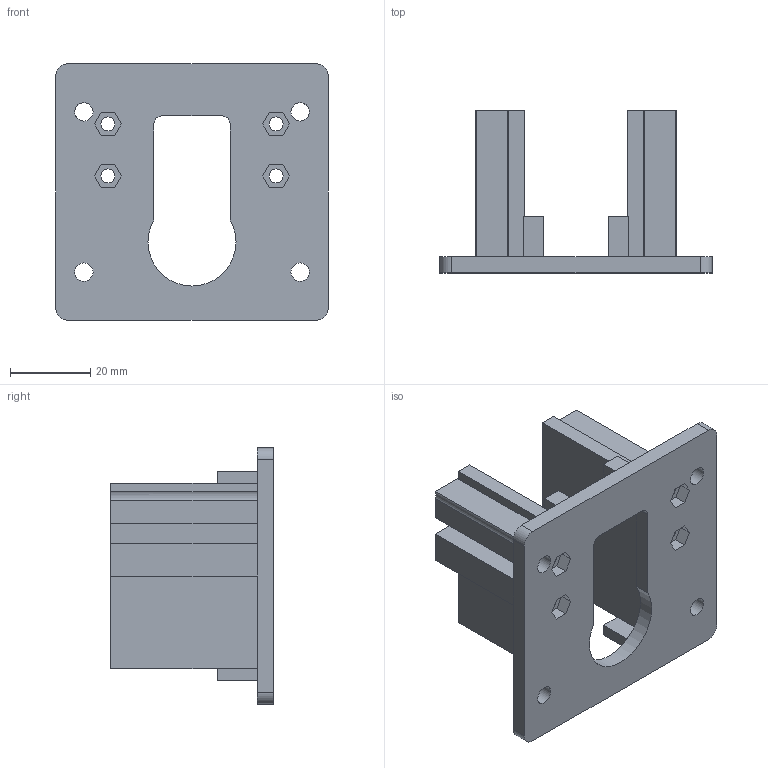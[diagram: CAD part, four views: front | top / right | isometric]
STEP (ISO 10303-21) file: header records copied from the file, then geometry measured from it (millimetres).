
FILE_DESCRIPTION(('Open CASCADE Model'),'2;1');
FILE_NAME('Open CASCADE Shape Model','2026-10-13T11:47:37',('Author'),( 'Open CASCADE'),'Open CASCADE STEP processor 7.8','Open CASCADE 7.8' ,'Unknown');
FILE_SCHEMA(('AUTOMOTIVE_DESIGN { 1 0 10303 214 1 1 1 1 }'));
Length unit declared in the file: millimetre
Products named in the file (1): Open CASCADE STEP translator 7.8 55
Bounding box: 68 x 40.5 x 64 mm (x, y, z)
Volume: 35639.7 mm3; surface area: 21431.3 mm2
Topology: 1 solids, 1 shells, 114 faces, 320 edges, 212 vertices
Faces by surface type: plane 99, cylinder 15
Full cylindrical faces by diameter (mm): 3.5 x4, 4.6 x4
Entity records: 7865 total; most frequent: CARTESIAN_POINT 1353, DIRECTION 1213, LINE 892, VECTOR 892, ORIENTED_EDGE 640, PCURVE 640, DEFINITIONAL_REPRESENTATION 640, EDGE_CURVE 320
